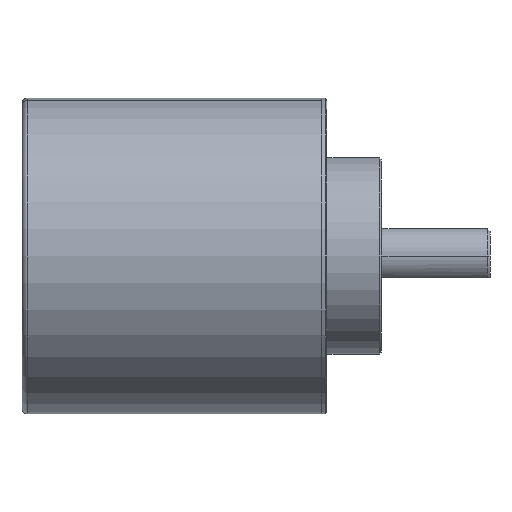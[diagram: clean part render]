
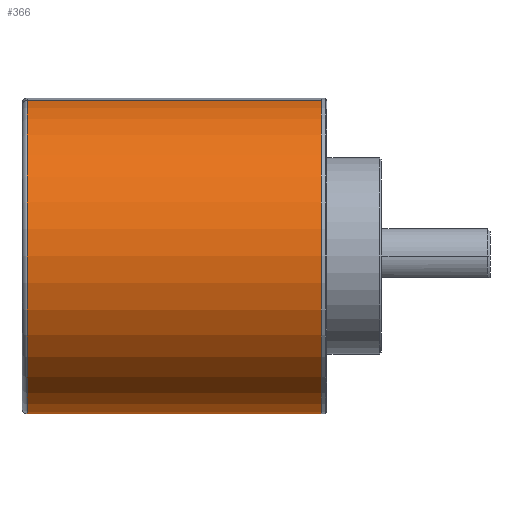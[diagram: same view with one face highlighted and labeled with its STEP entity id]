
A CAD part, front view. The second image highlights one B-rep face of the part: STEP entity #366.
In plain terms, the highlighted cylindrical face has radius 29 mm (diameter 58 mm), a partial arc.
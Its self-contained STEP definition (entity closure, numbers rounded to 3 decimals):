
#266 = EDGE_CURVE ( 'NONE', #4793, #2050, #4441, .T. ) ;
#356 = CARTESIAN_POINT ( 'NONE',  ( 15., 0., 0. ) ) ;
#366 = ADVANCED_FACE ( 'NONE', ( #4716 ), #1091, .T. ) ;
#401 = CARTESIAN_POINT ( 'NONE',  ( -39., -5.036, 28.559 ) ) ;
#509 = CARTESIAN_POINT ( 'NONE',  ( 15., 0., 0. ) ) ;
#849 = CARTESIAN_POINT ( 'NONE',  ( -39., 0., 0. ) ) ;
#1091 = CYLINDRICAL_SURFACE ( 'NONE', #3033, 29. ) ;
#1204 = CARTESIAN_POINT ( 'NONE',  ( 15., 5.036, -28.559 ) ) ;
#1206 = DIRECTION ( 'NONE',  ( 1., 0., 0. ) ) ;
#1227 = VERTEX_POINT ( 'NONE', #3541 ) ;
#1544 = AXIS2_PLACEMENT_3D ( 'NONE', #509, #1206, #3170 ) ;
#1806 = CARTESIAN_POINT ( 'NONE',  ( 15., -5.036, 28.559 ) ) ;
#1818 = CARTESIAN_POINT ( 'NONE',  ( 15., -5.036, 28.559 ) ) ;
#1851 = EDGE_CURVE ( 'NONE', #2050, #1227, #4194, .T. ) ;
#1898 = VECTOR ( 'NONE', #4870, 1000. ) ;
#1942 = DIRECTION ( 'NONE',  ( -1., 0., 0. ) ) ;
#1959 = DIRECTION ( 'NONE',  ( -1., 0., 0. ) ) ;
#2050 = VERTEX_POINT ( 'NONE', #1204 ) ;
#2411 = CIRCLE ( 'NONE', #3507, 29. ) ;
#2498 = DIRECTION ( 'NONE',  ( 0., 0.174, -0.985 ) ) ;
#2640 = CARTESIAN_POINT ( 'NONE',  ( 15., 5.036, -28.559 ) ) ;
#3033 = AXIS2_PLACEMENT_3D ( 'NONE', #356, #1959, #4924 ) ;
#3067 = ORIENTED_EDGE ( 'NONE', *, *, #1851, .F. ) ;
#3170 = DIRECTION ( 'NONE',  ( 0., 0.174, -0.985 ) ) ;
#3480 = EDGE_LOOP ( 'NONE', ( #3067, #3934, #5442, #4239 ) ) ;
#3507 = AXIS2_PLACEMENT_3D ( 'NONE', #849, #4255, #2498 ) ;
#3541 = CARTESIAN_POINT ( 'NONE',  ( -39., 5.036, -28.559 ) ) ;
#3934 = ORIENTED_EDGE ( 'NONE', *, *, #266, .F. ) ;
#4194 = LINE ( 'NONE', #2640, #5732 ) ;
#4239 = ORIENTED_EDGE ( 'NONE', *, *, #4704, .T. ) ;
#4255 = DIRECTION ( 'NONE',  ( 1., 0., 0. ) ) ;
#4441 = CIRCLE ( 'NONE', #1544, 29. ) ;
#4623 = LINE ( 'NONE', #1818, #1898 ) ;
#4704 = EDGE_CURVE ( 'NONE', #4858, #1227, #2411, .T. ) ;
#4716 = FACE_OUTER_BOUND ( 'NONE', #3480, .T. ) ;
#4793 = VERTEX_POINT ( 'NONE', #1806 ) ;
#4854 = EDGE_CURVE ( 'NONE', #4793, #4858, #4623, .T. ) ;
#4858 = VERTEX_POINT ( 'NONE', #401 ) ;
#4870 = DIRECTION ( 'NONE',  ( -1., 0., 0. ) ) ;
#4924 = DIRECTION ( 'NONE',  ( 0., -0.174, 0.985 ) ) ;
#5442 = ORIENTED_EDGE ( 'NONE', *, *, #4854, .T. ) ;
#5732 = VECTOR ( 'NONE', #1942, 1000. ) ;
